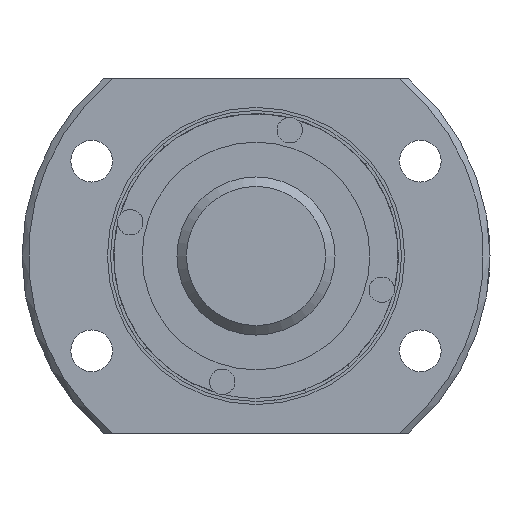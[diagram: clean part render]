
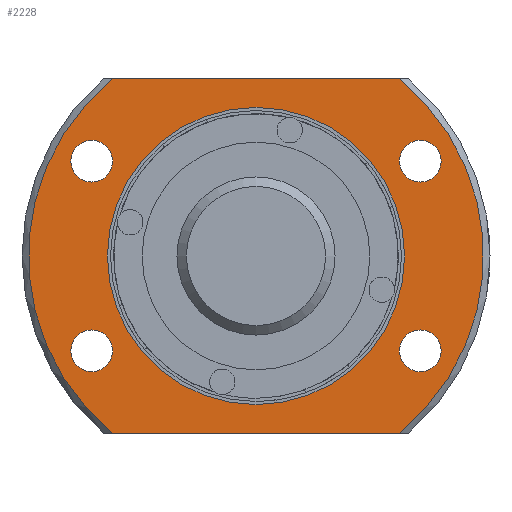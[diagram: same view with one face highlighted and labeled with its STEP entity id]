
A CAD part, left-side view. The second image highlights one B-rep face of the part: STEP entity #2228.
In plain terms, the highlighted planar face has unit normal (-1, 0, 0).
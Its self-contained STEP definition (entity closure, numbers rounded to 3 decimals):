
#81=LINE('',#3791,#201);
#82=LINE('',#3792,#202);
#201=VECTOR('',#2867,1000.);
#202=VECTOR('',#2868,1000.);
#481=ORIENTED_EDGE('',*,*,#1064,.T.);
#482=ORIENTED_EDGE('',*,*,#1065,.F.);
#483=ORIENTED_EDGE('',*,*,#1043,.F.);
#484=ORIENTED_EDGE('',*,*,#1066,.F.);
#485=ORIENTED_EDGE('',*,*,#1062,.F.);
#486=ORIENTED_EDGE('',*,*,#1067,.T.);
#487=ORIENTED_EDGE('',*,*,#1068,.T.);
#488=ORIENTED_EDGE('',*,*,#1069,.T.);
#489=ORIENTED_EDGE('',*,*,#1070,.T.);
#1043=EDGE_CURVE('',#1338,#1337,#1504,.T.);
#1062=EDGE_CURVE('',#1353,#1354,#1518,.T.);
#1064=EDGE_CURVE('',#1355,#1355,#1519,.T.);
#1065=EDGE_CURVE('',#1337,#1353,#81,.T.);
#1066=EDGE_CURVE('',#1354,#1338,#82,.T.);
#1067=EDGE_CURVE('',#1356,#1356,#1520,.T.);
#1068=EDGE_CURVE('',#1357,#1357,#1521,.T.);
#1069=EDGE_CURVE('',#1358,#1358,#1522,.T.);
#1070=EDGE_CURVE('',#1359,#1359,#1523,.T.);
#1337=VERTEX_POINT('',#3724);
#1338=VERTEX_POINT('',#3729);
#1353=VERTEX_POINT('',#3781);
#1354=VERTEX_POINT('',#3783);
#1355=VERTEX_POINT('',#3790);
#1356=VERTEX_POINT('',#3794);
#1357=VERTEX_POINT('',#3796);
#1358=VERTEX_POINT('',#3798);
#1359=VERTEX_POINT('',#3800);
#1504=CIRCLE('',#2434,36.);
#1518=CIRCLE('',#2457,36.);
#1519=CIRCLE('',#2459,23.5);
#1520=CIRCLE('',#2460,3.3);
#1521=CIRCLE('',#2461,3.3);
#1522=CIRCLE('',#2462,3.3);
#1523=CIRCLE('',#2463,3.3);
#1673=EDGE_LOOP('',(#481));
#1674=EDGE_LOOP('',(#482,#483,#484,#485));
#1675=EDGE_LOOP('',(#486));
#1676=EDGE_LOOP('',(#487));
#1677=EDGE_LOOP('',(#488));
#1678=EDGE_LOOP('',(#489));
#1907=FACE_BOUND('',#1673,.T.);
#1908=FACE_BOUND('',#1674,.T.);
#1909=FACE_BOUND('',#1675,.T.);
#1910=FACE_BOUND('',#1676,.T.);
#1911=FACE_BOUND('',#1677,.T.);
#1912=FACE_BOUND('',#1678,.T.);
#2107=PLANE('',#2458);
#2228=ADVANCED_FACE('',(#1907,#1908,#1909,#1910,#1911,#1912),#2107,.T.);
#2434=AXIS2_PLACEMENT_3D('',#3730,#2813,#2814);
#2457=AXIS2_PLACEMENT_3D('',#3782,#2861,#2862);
#2458=AXIS2_PLACEMENT_3D('',#3788,#2863,#2864);
#2459=AXIS2_PLACEMENT_3D('',#3789,#2865,#2866);
#2460=AXIS2_PLACEMENT_3D('',#3793,#2869,#2870);
#2461=AXIS2_PLACEMENT_3D('',#3795,#2871,#2872);
#2462=AXIS2_PLACEMENT_3D('',#3797,#2873,#2874);
#2463=AXIS2_PLACEMENT_3D('',#3799,#2875,#2876);
#2813=DIRECTION('',(1.,0.,0.));
#2814=DIRECTION('',(0.,0.,-1.));
#2861=DIRECTION('',(1.,0.,0.));
#2862=DIRECTION('',(0.,0.,-1.));
#2863=DIRECTION('',(-1.,0.,0.));
#2864=DIRECTION('',(0.,0.,1.));
#2865=DIRECTION('',(1.,0.,0.));
#2866=DIRECTION('',(0.,0.,-1.));
#2867=DIRECTION('',(0.,1.,0.));
#2868=DIRECTION('',(0.,-1.,0.));
#2869=DIRECTION('',(1.,0.,0.));
#2870=DIRECTION('',(0.,0.,-1.));
#2871=DIRECTION('',(1.,0.,0.));
#2872=DIRECTION('',(0.,0.,-1.));
#2873=DIRECTION('',(1.,0.,0.));
#2874=DIRECTION('',(0.,0.,-1.));
#2875=DIRECTION('',(1.,0.,0.));
#2876=DIRECTION('',(0.,0.,-1.));
#3724=CARTESIAN_POINT('',(8.,-22.627,-28.));
#3729=CARTESIAN_POINT('',(8.,-22.627,28.));
#3730=CARTESIAN_POINT('',(8.,0.,0.));
#3781=CARTESIAN_POINT('',(8.,22.627,-28.));
#3782=CARTESIAN_POINT('',(8.,0.,0.));
#3783=CARTESIAN_POINT('',(8.,22.627,28.));
#3788=CARTESIAN_POINT('',(8.,36.,0.));
#3789=CARTESIAN_POINT('',(8.,0.,0.));
#3790=CARTESIAN_POINT('',(8.,0.,-23.5));
#3791=CARTESIAN_POINT('',(8.,36.,-28.));
#3792=CARTESIAN_POINT('',(8.,36.,28.));
#3793=CARTESIAN_POINT('',(8.,25.981,-15.));
#3794=CARTESIAN_POINT('',(8.,25.981,-18.3));
#3795=CARTESIAN_POINT('',(8.,-25.981,15.));
#3796=CARTESIAN_POINT('',(8.,-25.981,11.7));
#3797=CARTESIAN_POINT('',(8.,-25.981,-15.));
#3798=CARTESIAN_POINT('',(8.,-25.981,-18.3));
#3799=CARTESIAN_POINT('',(8.,25.981,15.));
#3800=CARTESIAN_POINT('',(8.,25.981,11.7));
